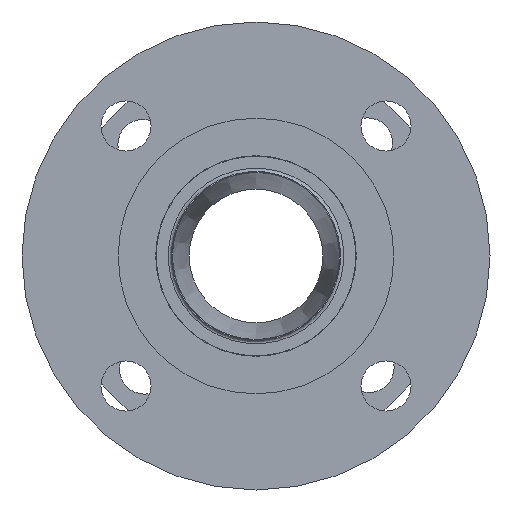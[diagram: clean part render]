
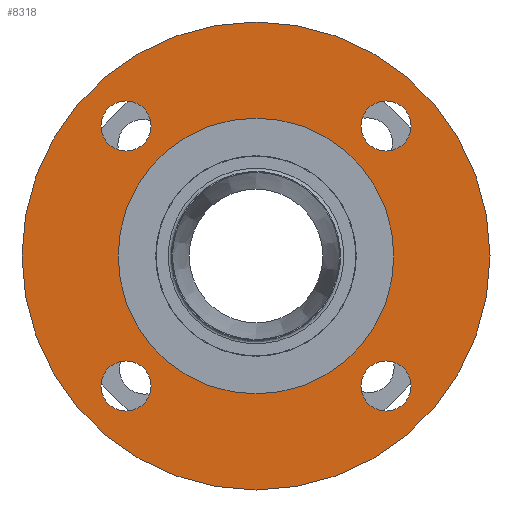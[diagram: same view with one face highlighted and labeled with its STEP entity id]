
A CAD part, front view. The second image highlights one B-rep face of the part: STEP entity #8318.
In plain terms, the highlighted planar face has unit normal (0, -1, 0) as drawn and (0, 1, 0) by its records, which use the part's own axes.
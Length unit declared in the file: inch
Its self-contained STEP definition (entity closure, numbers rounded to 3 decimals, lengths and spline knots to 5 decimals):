
#8103=CARTESIAN_POINT('',(-1.94454,0.5625,2.31954));
#8104=VERTEX_POINT('',#8103);
#8105=CARTESIAN_POINT('',(-1.94454,0.5625,1.94454));
#8106=DIRECTION('',(0.0,-1.0,0.0));
#8107=DIRECTION('',(0.0,0.0,1.0));
#8108=AXIS2_PLACEMENT_3D('',#8105,#8106,#8107);
#8109=CIRCLE('',#8108,0.375);
#8110=EDGE_CURVE('',#8104,#8104,#8109,.T.);
#8131=CARTESIAN_POINT('',(-2.31954,0.5625,-1.94454));
#8132=VERTEX_POINT('',#8131);
#8133=CARTESIAN_POINT('',(-1.94454,0.5625,-1.94454));
#8134=DIRECTION('',(0.0,-1.0,0.0));
#8135=DIRECTION('',(-1.0,0.0,0.0));
#8136=AXIS2_PLACEMENT_3D('',#8133,#8134,#8135);
#8137=CIRCLE('',#8136,0.375);
#8138=EDGE_CURVE('',#8132,#8132,#8137,.T.);
#8159=CARTESIAN_POINT('',(1.94454,0.5625,-2.31954));
#8160=VERTEX_POINT('',#8159);
#8161=CARTESIAN_POINT('',(1.94454,0.5625,-1.94454));
#8162=DIRECTION('',(0.0,-1.0,0.0));
#8163=DIRECTION('',(0.0,0.0,-1.0));
#8164=AXIS2_PLACEMENT_3D('',#8161,#8162,#8163);
#8165=CIRCLE('',#8164,0.375);
#8166=EDGE_CURVE('',#8160,#8160,#8165,.T.);
#8187=CARTESIAN_POINT('',(2.31954,0.5625,1.94454));
#8188=VERTEX_POINT('',#8187);
#8189=CARTESIAN_POINT('',(1.94454,0.5625,1.94454));
#8190=DIRECTION('',(0.0,-1.0,0.0));
#8191=DIRECTION('',(1.0,0.0,0.0));
#8192=AXIS2_PLACEMENT_3D('',#8189,#8190,#8191);
#8193=CIRCLE('',#8192,0.375);
#8194=EDGE_CURVE('',#8188,#8188,#8193,.T.);
#8215=CARTESIAN_POINT('',(2.0625,0.5625,0.));
#8216=VERTEX_POINT('',#8215);
#8217=CARTESIAN_POINT('',(0.0,0.5625,0.0));
#8218=DIRECTION('',(0.0,-1.0,0.0));
#8219=DIRECTION('',(-1.0,0.0,0.0));
#8220=AXIS2_PLACEMENT_3D('',#8217,#8218,#8219);
#8221=CIRCLE('',#8220,2.0625);
#8222=EDGE_CURVE('',#8216,#8216,#8221,.T.);
#8272=CARTESIAN_POINT('',(-3.5,0.5625,0.));
#8273=VERTEX_POINT('',#8272);
#8274=CARTESIAN_POINT('',(0.0,0.5625,0.0));
#8275=DIRECTION('',(0.0,-1.0,0.0));
#8276=DIRECTION('',(1.0,0.0,0.0));
#8277=AXIS2_PLACEMENT_3D('',#8274,#8275,#8276);
#8278=CIRCLE('',#8277,3.5);
#8279=EDGE_CURVE('',#8273,#8273,#8278,.T.);
#8295=CARTESIAN_POINT('',(0.0,0.5625,0.0));
#8296=DIRECTION('',(0.0,-1.0,0.0));
#8297=DIRECTION('',(0.0,0.0,-1.0));
#8298=AXIS2_PLACEMENT_3D('',#8295,#8296,#8297);
#8299=PLANE('',#8298);
#8300=ORIENTED_EDGE('',*,*,#8279,.F.);
#8301=EDGE_LOOP('',(#8300));
#8302=FACE_OUTER_BOUND('',#8301,.T.);
#8303=ORIENTED_EDGE('',*,*,#8110,.T.);
#8304=EDGE_LOOP('',(#8303));
#8305=FACE_BOUND('',#8304,.T.);
#8306=ORIENTED_EDGE('',*,*,#8138,.T.);
#8307=EDGE_LOOP('',(#8306));
#8308=FACE_BOUND('',#8307,.T.);
#8309=ORIENTED_EDGE('',*,*,#8166,.T.);
#8310=EDGE_LOOP('',(#8309));
#8311=FACE_BOUND('',#8310,.T.);
#8312=ORIENTED_EDGE('',*,*,#8194,.T.);
#8313=EDGE_LOOP('',(#8312));
#8314=FACE_BOUND('',#8313,.T.);
#8315=ORIENTED_EDGE('',*,*,#8222,.T.);
#8316=EDGE_LOOP('',(#8315));
#8317=FACE_BOUND('',#8316,.T.);
#8318=ADVANCED_FACE('',(#8302,#8305,#8308,#8311,#8314,#8317),#8299,.F.);
